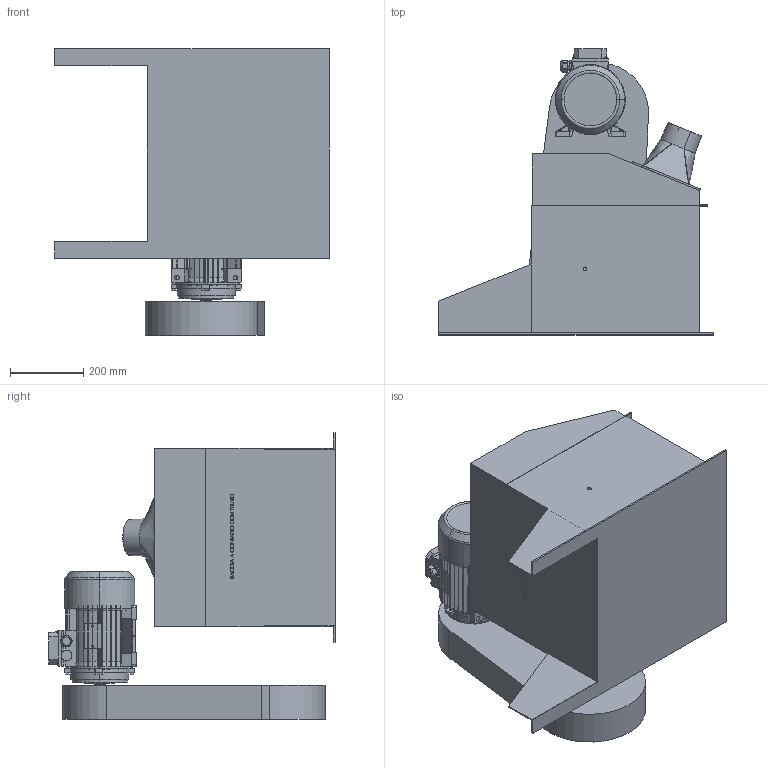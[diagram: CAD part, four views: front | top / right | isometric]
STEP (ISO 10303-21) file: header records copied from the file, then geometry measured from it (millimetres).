
FILE_DESCRIPTION (( 'STEP AP203' ), '1' );
FILE_NAME ('30694.step', '2019-03-14T14:31:17', ( 'PC' ), ( 'Hewlett-Packard Company' ), 'SwSTEP 2.0', 'SolidWorks 2016', '' );
FILE_SCHEMA (( 'CONFIG_CONTROL_DESIGN' ));
Length unit declared in the file: millimetre
Products named in the file (1): 30694
Bounding box: 750 x 781.02 x 782 mm (x, y, z)
Volume: 131086675.9 mm3; surface area: 3481777.8 mm2
Topology: 9 solids, 10 shells, 983 faces, 2544 edges, 1638 vertices
Faces by surface type: plane 661, cylinder 121, cone 109, bspline 86, torus 6
Entity records: 40711 total; most frequent: CARTESIAN_POINT 17276, ORIENTED_EDGE 5080, DIRECTION 4412, EDGE_CURVE 2540, LINE 1696, VECTOR 1696, VERTEX_POINT 1638, AXIS2_PLACEMENT_3D 1358
